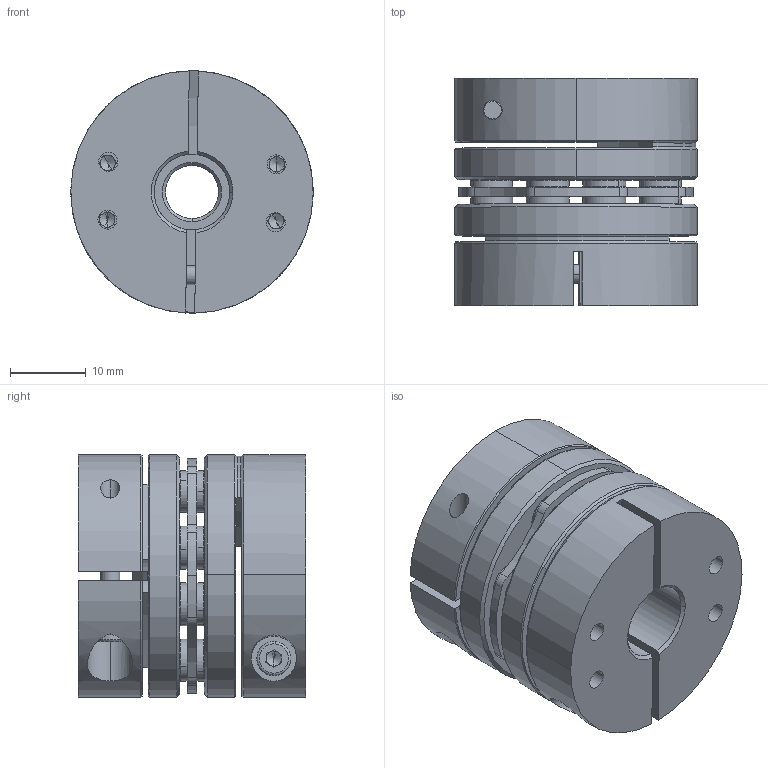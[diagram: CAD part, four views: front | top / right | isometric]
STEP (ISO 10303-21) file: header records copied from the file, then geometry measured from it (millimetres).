
FILE_DESCRIPTION (( 'STEP AP203' ), '1' );
FILE_NAME ('LDG-32-B1-7-10.STEP', '2021-10-28T05:10:08', ( '' ), ( '' ), 'SwSTEP 2.0', 'SolidWorks 2018', '' );
FILE_SCHEMA (( 'CONFIG_CONTROL_DESIGN' ));
Length unit declared in the file: millimetre
Products named in the file (2): 錨璃5^LDG-32蚾饜芞1; LDG-32-B1-7-10
Assembly tree (1 placements, depth 2):
  LDG-32-B1-7-10
    錨璃5^LDG-32蚾饜芞1
Bounding box: 32 x 30 x 32 mm (x, y, z)
Volume: 18338.4 mm3; surface area: 13299.2 mm2
Topology: 1 solids, 11 shells, 795 faces, 1967 edges, 1216 vertices
Faces by surface type: cylinder 301, plane 244, cone 230, torus 20
Entity records: 24191 total; most frequent: CARTESIAN_POINT 4472, DIRECTION 4465, ORIENTED_EDGE 3878, EDGE_CURVE 1939, AXIS2_PLACEMENT_3D 1819, VERTEX_POINT 1216, CIRCLE 1020, EDGE_LOOP 939
